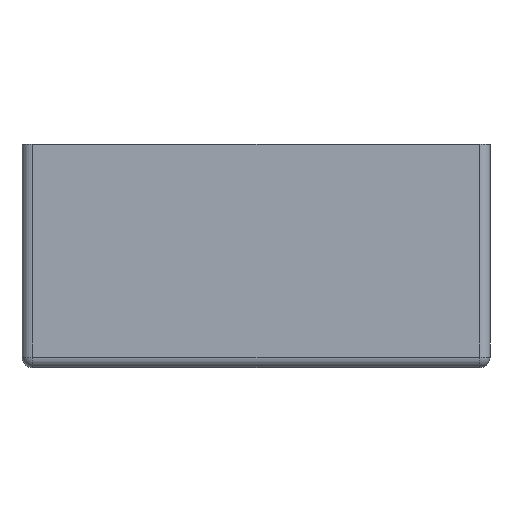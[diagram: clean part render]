
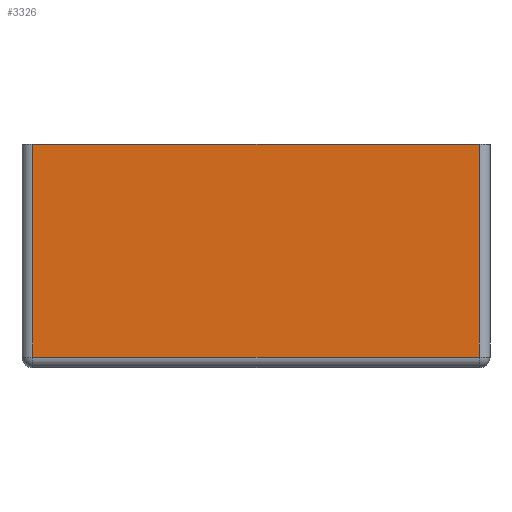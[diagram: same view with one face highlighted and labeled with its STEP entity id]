
A CAD part, left-side view. The second image highlights one B-rep face of the part: STEP entity #3326.
In plain terms, the highlighted planar face has unit normal (-1, 0, 0).
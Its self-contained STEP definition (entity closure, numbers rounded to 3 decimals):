
#1620 = CYLINDRICAL_SURFACE('',#1621,2.);
#1621 = AXIS2_PLACEMENT_3D('',#1622,#1623,#1624);
#1622 = CARTESIAN_POINT('',(-51.,-44.,2.));
#1623 = DIRECTION('',(0.,1.,0.));
#1624 = DIRECTION('',(0.,0.,-1.));
#2140 = VERTEX_POINT('',#2141);
#2141 = CARTESIAN_POINT('',(-53.,-42.,2.));
#2163 = EDGE_CURVE('',#2140,#2164,#2166,.T.);
#2164 = VERTEX_POINT('',#2165);
#2165 = CARTESIAN_POINT('',(-53.,42.,2.));
#2166 = SURFACE_CURVE('',#2167,(#2171,#2178),.PCURVE_S1.);
#2167 = LINE('',#2168,#2169);
#2168 = CARTESIAN_POINT('',(-53.,-44.,2.));
#2169 = VECTOR('',#2170,1.);
#2170 = DIRECTION('',(0.,1.,0.));
#2171 = PCURVE('',#1620,#2172);
#2172 = DEFINITIONAL_REPRESENTATION('',(#2173),#2177);
#2173 = LINE('',#2174,#2175);
#2174 = CARTESIAN_POINT('',(1.571,0.));
#2175 = VECTOR('',#2176,1.);
#2176 = DIRECTION('',(0.,1.));
#2177 = ( GEOMETRIC_REPRESENTATION_CONTEXT(2) 
PARAMETRIC_REPRESENTATION_CONTEXT() REPRESENTATION_CONTEXT('2D SPACE',''
  ) );
#2178 = PCURVE('',#2179,#2184);
#2179 = PLANE('',#2180);
#2180 = AXIS2_PLACEMENT_3D('',#2181,#2182,#2183);
#2181 = CARTESIAN_POINT('',(-53.,0.,22.));
#2182 = DIRECTION('',(-1.,-0.,-0.));
#2183 = DIRECTION('',(0.,0.,-1.));
#2184 = DEFINITIONAL_REPRESENTATION('',(#2185),#2189);
#2185 = LINE('',#2186,#2187);
#2186 = CARTESIAN_POINT('',(20.,44.));
#2187 = VECTOR('',#2188,1.);
#2188 = DIRECTION('',(0.,-1.));
#2189 = ( GEOMETRIC_REPRESENTATION_CONTEXT(2) 
PARAMETRIC_REPRESENTATION_CONTEXT() REPRESENTATION_CONTEXT('2D SPACE',''
  ) );
#2467 = CYLINDRICAL_SURFACE('',#2468,2.);
#2468 = AXIS2_PLACEMENT_3D('',#2469,#2470,#2471);
#2469 = CARTESIAN_POINT('',(-51.,42.,38.));
#2470 = DIRECTION('',(0.,0.,-1.));
#2471 = DIRECTION('',(0.,-1.,0.));
#2499 = CYLINDRICAL_SURFACE('',#2500,2.);
#2500 = AXIS2_PLACEMENT_3D('',#2501,#2502,#2503);
#2501 = CARTESIAN_POINT('',(-51.,-42.,38.));
#2502 = DIRECTION('',(0.,0.,-1.));
#2503 = DIRECTION('',(0.,-1.,0.));
#2737 = PLANE('',#2738);
#2738 = AXIS2_PLACEMENT_3D('',#2739,#2740,#2741);
#2739 = CARTESIAN_POINT('',(0.,0.,42.));
#2740 = DIRECTION('',(-0.,-0.,-1.));
#2741 = DIRECTION('',(-1.,0.,0.));
#3063 = VERTEX_POINT('',#3064);
#3064 = CARTESIAN_POINT('',(-53.,-42.,42.));
#3090 = EDGE_CURVE('',#3063,#3091,#3093,.T.);
#3091 = VERTEX_POINT('',#3092);
#3092 = CARTESIAN_POINT('',(-53.,42.,42.));
#3093 = SURFACE_CURVE('',#3094,(#3098,#3105),.PCURVE_S1.);
#3094 = LINE('',#3095,#3096);
#3095 = CARTESIAN_POINT('',(-53.,-44.,42.));
#3096 = VECTOR('',#3097,1.);
#3097 = DIRECTION('',(0.,1.,0.));
#3098 = PCURVE('',#2737,#3099);
#3099 = DEFINITIONAL_REPRESENTATION('',(#3100),#3104);
#3100 = LINE('',#3101,#3102);
#3101 = CARTESIAN_POINT('',(53.,-44.));
#3102 = VECTOR('',#3103,1.);
#3103 = DIRECTION('',(0.,1.));
#3104 = ( GEOMETRIC_REPRESENTATION_CONTEXT(2) 
PARAMETRIC_REPRESENTATION_CONTEXT() REPRESENTATION_CONTEXT('2D SPACE',''
  ) );
#3105 = PCURVE('',#2179,#3106);
#3106 = DEFINITIONAL_REPRESENTATION('',(#3107),#3111);
#3107 = LINE('',#3108,#3109);
#3108 = CARTESIAN_POINT('',(-20.,44.));
#3109 = VECTOR('',#3110,1.);
#3110 = DIRECTION('',(0.,-1.));
#3111 = ( GEOMETRIC_REPRESENTATION_CONTEXT(2) 
PARAMETRIC_REPRESENTATION_CONTEXT() REPRESENTATION_CONTEXT('2D SPACE',''
  ) );
#3326 = ADVANCED_FACE('',(#3327),#2179,.T.);
#3327 = FACE_BOUND('',#3328,.T.);
#3328 = EDGE_LOOP('',(#3329,#3330,#3351,#3352));
#3329 = ORIENTED_EDGE('',*,*,#3090,.T.);
#3330 = ORIENTED_EDGE('',*,*,#3331,.F.);
#3331 = EDGE_CURVE('',#2164,#3091,#3332,.T.);
#3332 = SURFACE_CURVE('',#3333,(#3337,#3344),.PCURVE_S1.);
#3333 = LINE('',#3334,#3335);
#3334 = CARTESIAN_POINT('',(-53.,42.,38.));
#3335 = VECTOR('',#3336,1.);
#3336 = DIRECTION('',(0.,0.,1.));
#3337 = PCURVE('',#2179,#3338);
#3338 = DEFINITIONAL_REPRESENTATION('',(#3339),#3343);
#3339 = LINE('',#3340,#3341);
#3340 = CARTESIAN_POINT('',(-16.,-42.));
#3341 = VECTOR('',#3342,1.);
#3342 = DIRECTION('',(-1.,0.));
#3343 = ( GEOMETRIC_REPRESENTATION_CONTEXT(2) 
PARAMETRIC_REPRESENTATION_CONTEXT() REPRESENTATION_CONTEXT('2D SPACE',''
  ) );
#3344 = PCURVE('',#2467,#3345);
#3345 = DEFINITIONAL_REPRESENTATION('',(#3346),#3350);
#3346 = LINE('',#3347,#3348);
#3347 = CARTESIAN_POINT('',(-4.712,0.));
#3348 = VECTOR('',#3349,1.);
#3349 = DIRECTION('',(-0.,-1.));
#3350 = ( GEOMETRIC_REPRESENTATION_CONTEXT(2) 
PARAMETRIC_REPRESENTATION_CONTEXT() REPRESENTATION_CONTEXT('2D SPACE',''
  ) );
#3351 = ORIENTED_EDGE('',*,*,#2163,.F.);
#3352 = ORIENTED_EDGE('',*,*,#3353,.T.);
#3353 = EDGE_CURVE('',#2140,#3063,#3354,.T.);
#3354 = SURFACE_CURVE('',#3355,(#3359,#3366),.PCURVE_S1.);
#3355 = LINE('',#3356,#3357);
#3356 = CARTESIAN_POINT('',(-53.,-42.,0.));
#3357 = VECTOR('',#3358,1.);
#3358 = DIRECTION('',(0.,0.,1.));
#3359 = PCURVE('',#2179,#3360);
#3360 = DEFINITIONAL_REPRESENTATION('',(#3361),#3365);
#3361 = LINE('',#3362,#3363);
#3362 = CARTESIAN_POINT('',(22.,42.));
#3363 = VECTOR('',#3364,1.);
#3364 = DIRECTION('',(-1.,0.));
#3365 = ( GEOMETRIC_REPRESENTATION_CONTEXT(2) 
PARAMETRIC_REPRESENTATION_CONTEXT() REPRESENTATION_CONTEXT('2D SPACE',''
  ) );
#3366 = PCURVE('',#2499,#3367);
#3367 = DEFINITIONAL_REPRESENTATION('',(#3368),#3372);
#3368 = LINE('',#3369,#3370);
#3369 = CARTESIAN_POINT('',(-4.712,38.));
#3370 = VECTOR('',#3371,1.);
#3371 = DIRECTION('',(-0.,-1.));
#3372 = ( GEOMETRIC_REPRESENTATION_CONTEXT(2) 
PARAMETRIC_REPRESENTATION_CONTEXT() REPRESENTATION_CONTEXT('2D SPACE',''
  ) );
